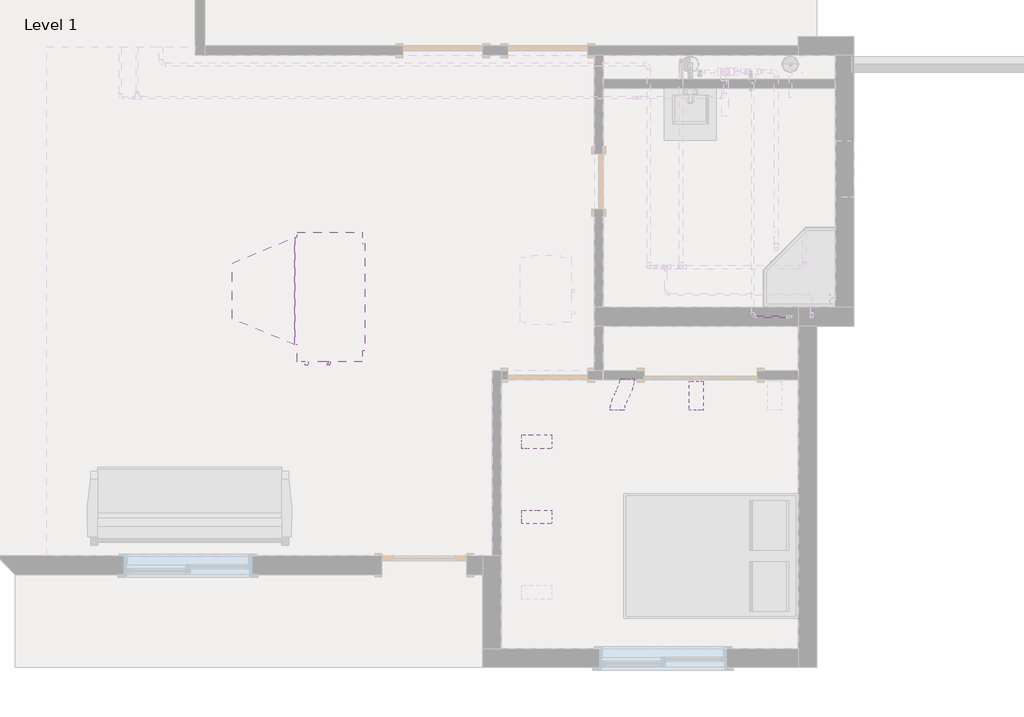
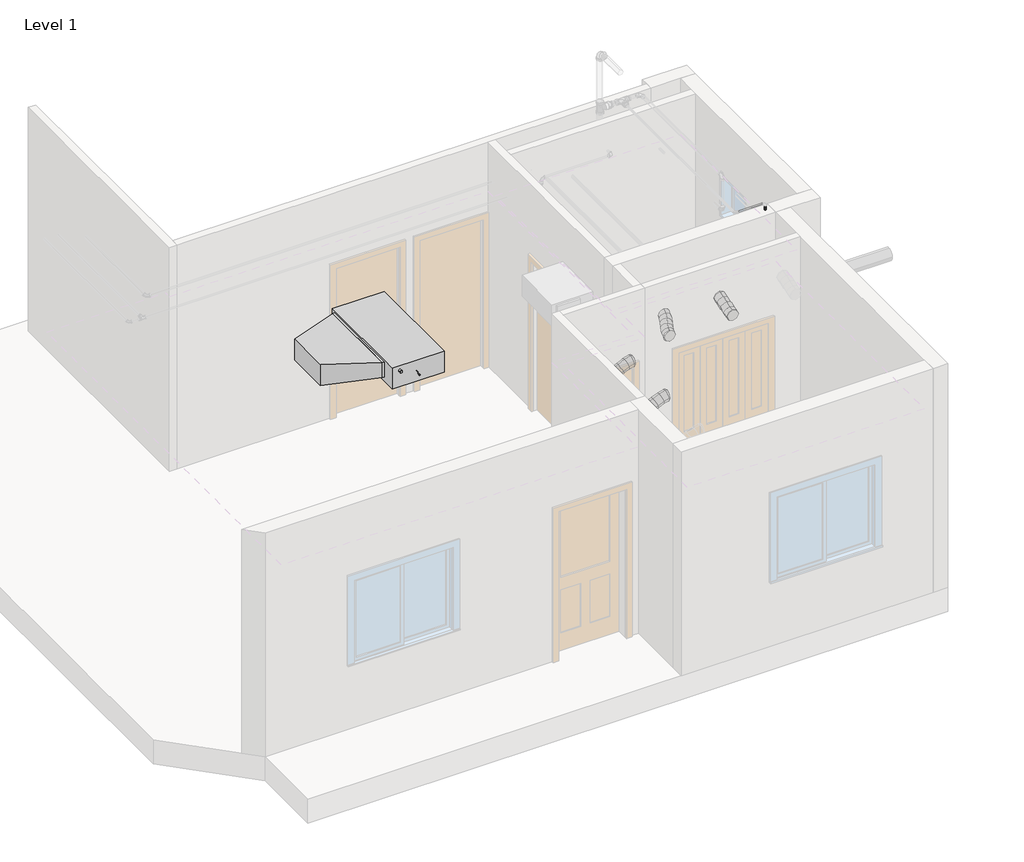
# One storey, part 2 of 5: 4 duct segments, 3 pipe segments, 1 duct fitting, 1 pipe fitting, 1 proxy.
"""IFC4 building model written with IfcOpenShell, lengths in millimetres."""

from ifc_helpers import new_model, si_unit, point, frame, frame_2d, origin, place, context, project, spatial, circle_curve, ellipse_curve, trimmed, segment, composite_curve, outline, extrude, transform, mapped, element, save
from ifc_brep_helpers import plane_surface, cylinder_surface, advanced_brep
from components import mechanical_equipment_5a1bd61d, m_rectangular_transition_angle_45_degree_3b68d6e0, m_bend_pvc_sch_40_dwv_standard_42e46e6b

model = new_model("IFC4")

# Units and contexts
model_context = context("Model", 3, world=origin())
ifc_project = project(units=[si_unit("LENGTHUNIT", "METRE", prefix="MILLI")], contexts=[model_context])

# Site, building, storey
site = spatial("IfcSite", under=ifc_project)
building = spatial("IfcBuilding", under=site)
storey = spatial("IfcBuildingStorey", under=building, Name="Level 1", Elevation=0.0)

# Proxy
placement = place(None, origin())
mechanical_equipment_shape = mechanical_equipment_5a1bd61d(model_context)
element("IfcBuildingElementProxy", 1, Name="Fan_Coil_Unit-Daikin-FXSQ-P-StandardDuct-RetAirBack : 9kW, 230V/50Hz/1Ph", ObjectType="Fan_Coil_Unit-Daikin-FXSQ-P-StandardDuct-RetAirBack : 9kW, 230V/50Hz/1Ph", at=placement, inside=storey, context=model_context, shape_type="MappedRepresentation", body=[
    mapped(mechanical_equipment_shape, transform((-13013.6230677, -1861.9074328, 2800.0), x_axis=(0.0, -1.0000000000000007, 0.0), y_axis=(1.0000000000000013, 0.0, 0.0), z_axis=(0.0, 0.0, 1.0000000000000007))),
])

# Duct fitting
m_rectangular_transition_angle_45_degree_shape = m_rectangular_transition_angle_45_degree_3b68d6e0(model_context)
element("IfcDuctFitting", 2, ObjectType="M_Rectangular Transition - Angle : 45 Degree", at=placement, inside=storey, context=model_context, shape_type="MappedRepresentation", body=[
    mapped(m_rectangular_transition_angle_45_degree_shape, transform((-13389.0230677, -1798.4074328, 2965.9125), x_axis=(-1.0, 0.0, 0.0), y_axis=(0.0, -1.0, 0.0), z_axis=(0.0, 0.0, 1.0))),
])

# Duct segments
element("IfcDuctSegment", 3, ObjectType="Flex - Round", at=placement, inside=storey, context=model_context, shape_type="AdvancedBrep", body=[
    advanced_brep(
    [(-10943.8498896, -4160.4324328, 2659.95), (-10943.8498896, -4235.4324328, 2584.95), (-10943.8498896, -4310.4324328, 2659.95), (-10943.8498896, -4235.4324328, 2734.95), (-10929.1429738, -4160.4324328, 2659.95), (-10920.155027, -4235.4324328, 2584.95), (-10929.1431207, -4310.4324328, 2659.95), (-10938.1310675, -4235.4324328, 2734.95), (-10861.0635411, -4160.432568, 2676.505074), (-10836.3819032, -4235.4325992, 2605.3213545), (-10861.0639442, -4310.432568, 2676.5050116), (-10885.7455821, -4235.4325368, 2747.6887311), (-10781.4354107, -4160.4328654, 2712.9261925), (-10750.239736, -4235.4329209, 2644.7219291), (-10781.4359202, -4310.4328654, 2712.9260815), (-10812.631595, -4235.4328099, 2781.130345), (-10701.8073867, -4160.4331629, 2749.3472624), (-10677.1257489, -4235.433194, 2678.1635429), (-10701.8077899, -4310.4331629, 2749.3472), (-10726.4894277, -4235.4331317, 2820.5309195), (-10619.0214413, -4160.4332981, 2765.902274), (-10619.0214413, -4235.4332981, 2840.902274), (-10619.0214413, -4310.4332981, 2765.902274), (-10619.0214413, -4235.4332981, 2690.902274), (-10633.7282103, -4160.4332981, 2765.902274), (-10624.7402635, -4235.4332981, 2690.902274), (-10633.7283571, -4310.4332981, 2765.902274), (-10642.7163039, -4235.4332981, 2840.902274)],
    [
        (0, 1, circle_curve(frame((-10943.8498896, -4235.4324328, 2659.95), z_axis=(-1.0, 0.0, 0.0), x_axis=(0.0, 1.0, 0.0)), 75.0)),
        (1, 2, circle_curve(frame((-10943.8498896, -4235.4324328, 2659.95), z_axis=(-1.0, 0.0, 0.0), x_axis=(0.0, 1.0, 0.0)), 75.0)),
        (2, 3, circle_curve(frame((-10943.8498896, -4235.4324328, 2659.95), z_axis=(-1.0, 0.0, 0.0), x_axis=(0.0, 1.0, 0.0)), 75.0)),
        (3, 0, circle_curve(frame((-10943.8498896, -4235.4324328, 2659.95), z_axis=(-1.0, 0.0, 0.0), x_axis=(0.0, 1.0, 0.0)), 75.0)),
        (0, 4),
        (4, 5, ellipse_curve(frame((-10929.1430473, -4235.4324328, 2659.95), z_axis=(-0.9928955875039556, 9.717531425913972e-07, -0.11898887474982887), x_axis=(-0.11898887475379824, -8.108736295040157e-06, 0.9928955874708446)), 75.5366435, 75.0)),
        (5, 1),
        (5, 6, ellipse_curve(frame((-10929.1430473, -4235.4324328, 2659.95), z_axis=(-0.9928955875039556, 9.717531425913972e-07, -0.11898887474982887), x_axis=(-0.11898887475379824, -8.108736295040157e-06, 0.9928955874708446)), 75.5366435, 75.0)),
        (6, 2),
        (6, 7, ellipse_curve(frame((-10929.1430473, -4235.4324328, 2659.95), z_axis=(-0.9928955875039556, 9.717531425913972e-07, -0.11898887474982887), x_axis=(-0.11898887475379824, -8.108736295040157e-06, 0.9928955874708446)), 75.5366435, 75.0)),
        (7, 3),
        (7, 4, ellipse_curve(frame((-10929.1430473, -4235.4324328, 2659.95), z_axis=(-0.9928955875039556, 9.717531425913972e-07, -0.11898887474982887), x_axis=(-0.11898887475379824, -8.108736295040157e-06, 0.9928955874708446)), 75.5366435, 75.0)),
        (4, 8),
        (8, 9, ellipse_curve(frame((-10861.0637426, -4235.432568, 2676.5050428), z_axis=(-0.9448163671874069, 2.6754327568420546e-06, -0.3276004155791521), x_axis=(-0.3276004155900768, -7.716085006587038e-06, 0.9448163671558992)), 75.3412946, 75.0)),
        (9, 5),
        (9, 10, ellipse_curve(frame((-10861.0637426, -4235.432568, 2676.5050428), z_axis=(-0.9448163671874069, 2.6754327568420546e-06, -0.3276004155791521), x_axis=(-0.3276004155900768, -7.716085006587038e-06, 0.9448163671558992)), 75.3412946, 75.0)),
        (10, 6),
        (10, 11, ellipse_curve(frame((-10861.0637426, -4235.432568, 2676.5050428), z_axis=(-0.9448163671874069, 2.6754327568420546e-06, -0.3276004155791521), x_axis=(-0.3276004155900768, -7.716085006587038e-06, 0.9448163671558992)), 75.3412946, 75.0)),
        (11, 7),
        (11, 8, ellipse_curve(frame((-10861.0637426, -4235.432568, 2676.5050428), z_axis=(-0.9448163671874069, 2.6754327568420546e-06, -0.3276004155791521), x_axis=(-0.3276004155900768, -7.716085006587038e-06, 0.9448163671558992)), 75.3412946, 75.0)),
        (8, 12),
        (12, 13, circle_curve(frame((-10781.4356655, -4235.4328654, 2712.926137), z_axis=(-0.9093894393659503, 3.3969273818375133e-06, -0.4159457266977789), x_axis=(3.396927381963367e-06, 0.9999999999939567, 7.399943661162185e-07)), 75.0)),
        (13, 9),
        (13, 14, circle_curve(frame((-10781.4356655, -4235.4328654, 2712.926137), z_axis=(-0.9093894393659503, 3.3969273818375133e-06, -0.4159457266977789), x_axis=(3.396927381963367e-06, 0.9999999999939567, 7.399943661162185e-07)), 75.0)),
        (14, 10),
        (14, 15, circle_curve(frame((-10781.4356655, -4235.4328654, 2712.926137), z_axis=(-0.9093894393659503, 3.3969273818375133e-06, -0.4159457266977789), x_axis=(3.396927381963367e-06, 0.9999999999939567, 7.399943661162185e-07)), 75.0)),
        (15, 11),
        (15, 12, circle_curve(frame((-10781.4356655, -4235.4328654, 2712.926137), z_axis=(-0.9093894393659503, 3.3969273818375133e-06, -0.4159457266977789), x_axis=(3.396927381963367e-06, 0.9999999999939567, 7.399943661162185e-07)), 75.0)),
        (12, 16),
        (16, 17, ellipse_curve(frame((-10701.8075883, -4235.4331629, 2749.3472312), z_axis=(-0.9448163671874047, 2.6754327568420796e-06, -0.32760041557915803), x_axis=(0.32760041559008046, 7.716085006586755e-06, -0.9448163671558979)), 75.3412946, 75.0)),
        (17, 13),
        (17, 18, ellipse_curve(frame((-10701.8075883, -4235.4331629, 2749.3472312), z_axis=(-0.9448163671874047, 2.6754327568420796e-06, -0.32760041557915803), x_axis=(0.32760041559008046, 7.716085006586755e-06, -0.9448163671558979)), 75.3412946, 75.0)),
        (18, 14),
        (18, 19, ellipse_curve(frame((-10701.8075883, -4235.4331629, 2749.3472312), z_axis=(-0.9448163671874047, 2.6754327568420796e-06, -0.32760041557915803), x_axis=(0.32760041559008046, 7.716085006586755e-06, -0.9448163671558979)), 75.3412946, 75.0)),
        (19, 15),
        (19, 16, ellipse_curve(frame((-10701.8075883, -4235.4331629, 2749.3472312), z_axis=(-0.9448163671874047, 2.6754327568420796e-06, -0.32760041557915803), x_axis=(0.32760041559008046, 7.716085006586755e-06, -0.9448163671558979)), 75.3412946, 75.0)),
        (20, 21, circle_curve(frame((-10619.0214413, -4235.4332981, 2765.902274), z_axis=(1.0, 0.0, 0.0), x_axis=(0.0, 1.0, 0.0)), 75.0)),
        (21, 22, circle_curve(frame((-10619.0214413, -4235.4332981, 2765.902274), z_axis=(1.0, 0.0, 0.0), x_axis=(0.0, 1.0, 0.0)), 75.0)),
        (22, 23, circle_curve(frame((-10619.0214413, -4235.4332981, 2765.902274), z_axis=(1.0, 0.0, 0.0), x_axis=(0.0, 1.0, 0.0)), 75.0)),
        (23, 20, circle_curve(frame((-10619.0214413, -4235.4332981, 2765.902274), z_axis=(1.0, 0.0, 0.0), x_axis=(0.0, 1.0, 0.0)), 75.0)),
        (16, 24),
        (24, 25, ellipse_curve(frame((-10633.7282837, -4235.4332981, 2765.902274), z_axis=(-0.9928955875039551, 9.717531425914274e-07, -0.1189888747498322), x_axis=(0.11898887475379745, 8.108736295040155e-06, -0.9928955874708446)), 75.5366435, 75.0)),
        (25, 17),
        (25, 26, ellipse_curve(frame((-10633.7282837, -4235.4332981, 2765.902274), z_axis=(-0.9928955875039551, 9.717531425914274e-07, -0.1189888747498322), x_axis=(0.11898887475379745, 8.108736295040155e-06, -0.9928955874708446)), 75.5366435, 75.0)),
        (26, 18),
        (26, 27, ellipse_curve(frame((-10633.7282837, -4235.4332981, 2765.902274), z_axis=(-0.9928955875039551, 9.717531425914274e-07, -0.1189888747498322), x_axis=(0.11898887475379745, 8.108736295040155e-06, -0.9928955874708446)), 75.5366435, 75.0)),
        (27, 19),
        (27, 24, ellipse_curve(frame((-10633.7282837, -4235.4332981, 2765.902274), z_axis=(-0.9928955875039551, 9.717531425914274e-07, -0.1189888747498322), x_axis=(0.11898887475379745, 8.108736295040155e-06, -0.9928955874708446)), 75.5366435, 75.0)),
        (24, 20),
        (23, 25),
        (22, 26),
        (21, 27),
    ],
    [
        plane_surface(frame((-10943.8498896, -4235.4324328, 2584.95), z_axis=(-1.0, 0.0, 0.0), x_axis=(0.0, 1.0, 0.0))),
        cylinder_surface(frame((-10943.8498896, -4235.4324328, 2659.95), z_axis=(-1.0, 0.0, 0.0), x_axis=(0.0, 1.0, 0.0)), 75.0),
        cylinder_surface(frame((-10929.1430473, -4235.4324328, 2659.95), z_axis=(-0.9716832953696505, 1.929698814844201e-06, -0.23628705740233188), x_axis=(1.929698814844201e-06, 0.9999999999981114, 2.3125562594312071e-07)), 75.0),
        cylinder_surface(frame((-10861.0637426, -4235.432568, 2676.5050428), z_axis=(-0.9093894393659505, 3.396927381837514e-06, -0.415945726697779), x_axis=(3.396927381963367e-06, 0.9999999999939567, 7.399943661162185e-07)), 75.0),
        cylinder_surface(frame((-10781.4356655, -4235.4328654, 2712.926137), z_axis=(-0.9093894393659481, 3.396927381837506e-06, -0.415945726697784), x_axis=(3.3969273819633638e-06, 0.9999999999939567, 7.39994366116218e-07)), 75.0),
        plane_surface(frame((-10619.0214413, -4235.4332981, 2690.902274), z_axis=(1.0, 0.0, 0.0), x_axis=(0.0, 1.0, 0.0))),
        cylinder_surface(frame((-10701.8075883, -4235.4331629, 2749.3472312), z_axis=(-0.9716832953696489, 1.9296988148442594e-06, -0.23628705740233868), x_axis=(1.9296988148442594e-06, 0.9999999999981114, 2.3125562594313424e-07)), 75.0),
        cylinder_surface(frame((-10633.7282837, -4235.4332981, 2765.902274), z_axis=(-1.0, 0.0, 0.0), x_axis=(0.0, 1.0, 0.0)), 75.0),
    ],
    [
        (0, [[1, 2, 3, 4]]),
        (1, [[-1, 5, 6, 7]]),
        (1, [[-2, -7, 8, 9]]),
        (1, [[-3, -9, 10, 11]]),
        (1, [[-4, -11, 12, -5]]),
        (2, [[-6, 13, 14, 15]]),
        (2, [[-8, -15, 16, 17]]),
        (2, [[-10, -17, 18, 19]]),
        (2, [[-12, -19, 20, -13]]),
        (3, [[-14, 21, 22, 23]]),
        (3, [[-16, -23, 24, 25]]),
        (3, [[-18, -25, 26, 27]]),
        (3, [[-20, -27, 28, -21]]),
        (4, [[-22, 29, 30, 31]]),
        (4, [[-24, -31, 32, 33]]),
        (4, [[-26, -33, 34, 35]]),
        (4, [[-28, -35, 36, -29]]),
        (5, [[37, 38, 39, 40]]),
        (6, [[-30, 41, 42, 43]]),
        (6, [[-32, -43, 44, 45]]),
        (6, [[-34, -45, 46, 47]]),
        (6, [[-36, -47, 48, -41]]),
        (7, [[-42, 49, -40, 50]]),
        (7, [[-44, -50, -39, 51]]),
        (7, [[-46, -51, -38, 52]]),
        (7, [[-48, -52, -37, -49]]),
    ],
),
])
element("IfcDuctSegment", 4, ObjectType="Flex - Round", at=placement, inside=storey, context=model_context, shape_type="AdvancedBrep", body=[
    advanced_brep(
    [(-10943.8498896, -3349.9324328, 2659.95), (-10943.8498896, -3424.9324328, 2584.95), (-10943.8498896, -3499.9324328, 2659.95), (-10943.8498896, -3424.9324328, 2734.95), (-10929.1420727, -3349.9324328, 2659.95), (-10920.1534583, -3424.9324328, 2584.95), (-10929.1422195, -3499.9324328, 2659.95), (-10938.1308338, -3424.9324328, 2734.95), (-10861.0633372, -3349.932568, 2676.5061698), (-10836.3801392, -3424.9325992, 2605.3229591), (-10861.0637403, -3499.932568, 2676.5061074), (-10885.7469383, -3424.9325368, 2747.6893181), (-10781.4354107, -3349.9328654, 2712.929699), (-10750.2379623, -3424.9329209, 2644.7262468), (-10781.4359202, -3499.9328654, 2712.929588), (-10812.6333686, -3424.9328099, 2781.1330402), (-10701.8075906, -3349.9331629, 2749.3531796), (-10677.1243926, -3424.933194, 2678.1699689), (-10701.8079937, -3499.9331629, 2749.3531173), (-10726.4911917, -3424.9331317, 2820.5363279), (-10619.0214413, -3349.9332981, 2765.909287), (-10619.0214413, -3424.9332981, 2840.909287), (-10619.0214413, -3499.9332981, 2765.909287), (-10619.0214413, -3424.9332981, 2690.909287), (-10633.7291115, -3349.9332981, 2765.909287), (-10624.7404971, -3424.9332981, 2690.909287), (-10633.7292583, -3499.9332981, 2765.909287), (-10642.7178726, -3424.9332981, 2840.909287)],
    [
        (0, 1, circle_curve(frame((-10943.8498896, -3424.9324328, 2659.95), z_axis=(-1.0, 0.0, 0.0), x_axis=(0.0, 1.0, 0.0)), 75.0)),
        (1, 2, circle_curve(frame((-10943.8498896, -3424.9324328, 2659.95), z_axis=(-1.0, 0.0, 0.0), x_axis=(0.0, 1.0, 0.0)), 75.0)),
        (2, 3, circle_curve(frame((-10943.8498896, -3424.9324328, 2659.95), z_axis=(-1.0, 0.0, 0.0), x_axis=(0.0, 1.0, 0.0)), 75.0)),
        (3, 0, circle_curve(frame((-10943.8498896, -3424.9324328, 2659.95), z_axis=(-1.0, 0.0, 0.0), x_axis=(0.0, 1.0, 0.0)), 75.0)),
        (0, 4),
        (4, 5, ellipse_curve(frame((-10929.1421461, -3424.9324328, 2659.95), z_axis=(-0.99289454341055, 9.717599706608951e-07, -0.11899758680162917), x_axis=(-0.11899758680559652, -8.108191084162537e-06, 0.9928945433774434)), 75.5367229, 75.0)),
        (5, 1),
        (5, 6, ellipse_curve(frame((-10929.1421461, -3424.9324328, 2659.95), z_axis=(-0.99289454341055, 9.717599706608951e-07, -0.11899758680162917), x_axis=(-0.11899758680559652, -8.108191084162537e-06, 0.9928945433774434)), 75.5367229, 75.0)),
        (6, 2),
        (6, 7, ellipse_curve(frame((-10929.1421461, -3424.9324328, 2659.95), z_axis=(-0.99289454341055, 9.717599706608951e-07, -0.11899758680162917), x_axis=(-0.11899758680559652, -8.108191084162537e-06, 0.9928945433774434)), 75.5367229, 75.0)),
        (7, 3),
        (7, 4, ellipse_curve(frame((-10929.1421461, -3424.9324328, 2659.95), z_axis=(-0.99289454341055, 9.717599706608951e-07, -0.11899758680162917), x_axis=(-0.11899758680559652, -8.108191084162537e-06, 0.9928945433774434)), 75.5367229, 75.0)),
        (4, 8),
        (8, 9, ellipse_curve(frame((-10861.0635388, -3424.932568, 2676.5061386), z_axis=(-0.9448092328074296, 2.6754237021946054e-06, -0.3276209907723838), x_axis=(-0.32762099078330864, -7.715516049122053e-06, 0.944809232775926)), 75.341325, 75.0)),
        (9, 5),
        (9, 10, ellipse_curve(frame((-10861.0635388, -3424.932568, 2676.5061386), z_axis=(-0.9448092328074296, 2.6754237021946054e-06, -0.3276209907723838), x_axis=(-0.32762099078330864, -7.715516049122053e-06, 0.944809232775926)), 75.341325, 75.0)),
        (10, 6),
        (10, 11, ellipse_curve(frame((-10861.0635388, -3424.932568, 2676.5061386), z_axis=(-0.9448092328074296, 2.6754237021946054e-06, -0.3276209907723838), x_axis=(-0.32762099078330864, -7.715516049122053e-06, 0.944809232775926)), 75.341325, 75.0)),
        (11, 7),
        (11, 8, ellipse_curve(frame((-10861.0635388, -3424.932568, 2676.5061386), z_axis=(-0.9448092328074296, 2.6754237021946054e-06, -0.3276209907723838), x_axis=(-0.32762099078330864, -7.715516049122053e-06, 0.944809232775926)), 75.341325, 75.0)),
        (8, 12),
        (12, 13, circle_curve(frame((-10781.4356655, -3424.9328654, 2712.9296435), z_axis=(-0.9093786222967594, 3.3968956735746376e-06, -0.41596937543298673), x_axis=(3.3968956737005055e-06, 0.9999999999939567, 7.40033723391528e-07)), 75.0)),
        (13, 9),
        (13, 14, circle_curve(frame((-10781.4356655, -3424.9328654, 2712.9296435), z_axis=(-0.9093786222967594, 3.3968956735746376e-06, -0.41596937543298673), x_axis=(3.3968956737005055e-06, 0.9999999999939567, 7.40033723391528e-07)), 75.0)),
        (14, 10),
        (14, 15, circle_curve(frame((-10781.4356655, -3424.9328654, 2712.9296435), z_axis=(-0.9093786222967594, 3.3968956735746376e-06, -0.41596937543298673), x_axis=(3.3968956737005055e-06, 0.9999999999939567, 7.40033723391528e-07)), 75.0)),
        (15, 11),
        (15, 12, circle_curve(frame((-10781.4356655, -3424.9328654, 2712.9296435), z_axis=(-0.9093786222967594, 3.3968956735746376e-06, -0.41596937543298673), x_axis=(3.3968956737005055e-06, 0.9999999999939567, 7.40033723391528e-07)), 75.0)),
        (12, 16),
        (16, 17, ellipse_curve(frame((-10701.8077922, -3424.9331629, 2749.3531484), z_axis=(-0.9448092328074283, 2.6754237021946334e-06, -0.3276209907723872), x_axis=(0.3276209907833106, 7.715516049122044e-06, -0.9448092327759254)), 75.341325, 75.0)),
        (17, 13),
        (17, 18, ellipse_curve(frame((-10701.8077922, -3424.9331629, 2749.3531484), z_axis=(-0.9448092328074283, 2.6754237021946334e-06, -0.3276209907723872), x_axis=(0.3276209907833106, 7.715516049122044e-06, -0.9448092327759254)), 75.341325, 75.0)),
        (18, 14),
        (18, 19, ellipse_curve(frame((-10701.8077922, -3424.9331629, 2749.3531484), z_axis=(-0.9448092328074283, 2.6754237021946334e-06, -0.3276209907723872), x_axis=(0.3276209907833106, 7.715516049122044e-06, -0.9448092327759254)), 75.341325, 75.0)),
        (19, 15),
        (19, 16, ellipse_curve(frame((-10701.8077922, -3424.9331629, 2749.3531484), z_axis=(-0.9448092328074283, 2.6754237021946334e-06, -0.3276209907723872), x_axis=(0.3276209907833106, 7.715516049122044e-06, -0.9448092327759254)), 75.341325, 75.0)),
        (20, 21, circle_curve(frame((-10619.0214413, -3424.9332981, 2765.909287), z_axis=(1.0, 0.0, 0.0), x_axis=(0.0, 1.0, 0.0)), 75.0)),
        (21, 22, circle_curve(frame((-10619.0214413, -3424.9332981, 2765.909287), z_axis=(1.0, 0.0, 0.0), x_axis=(0.0, 1.0, 0.0)), 75.0)),
        (22, 23, circle_curve(frame((-10619.0214413, -3424.9332981, 2765.909287), z_axis=(1.0, 0.0, 0.0), x_axis=(0.0, 1.0, 0.0)), 75.0)),
        (23, 20, circle_curve(frame((-10619.0214413, -3424.9332981, 2765.909287), z_axis=(1.0, 0.0, 0.0), x_axis=(0.0, 1.0, 0.0)), 75.0)),
        (16, 24),
        (24, 25, ellipse_curve(frame((-10633.7291849, -3424.9332981, 2765.909287), z_axis=(-0.9928945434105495, 9.71759970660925e-07, -0.11899758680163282), x_axis=(0.11899758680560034, 8.108191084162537e-06, -0.9928945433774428)), 75.5367229, 75.0)),
        (25, 17),
        (25, 26, ellipse_curve(frame((-10633.7291849, -3424.9332981, 2765.909287), z_axis=(-0.9928945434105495, 9.71759970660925e-07, -0.11899758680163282), x_axis=(0.11899758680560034, 8.108191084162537e-06, -0.9928945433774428)), 75.5367229, 75.0)),
        (26, 18),
        (26, 27, ellipse_curve(frame((-10633.7291849, -3424.9332981, 2765.909287), z_axis=(-0.9928945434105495, 9.71759970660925e-07, -0.11899758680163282), x_axis=(0.11899758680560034, 8.108191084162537e-06, -0.9928945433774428)), 75.5367229, 75.0)),
        (27, 19),
        (27, 24, ellipse_curve(frame((-10633.7291849, -3424.9332981, 2765.909287), z_axis=(-0.9928945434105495, 9.71759970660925e-07, -0.11899758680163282), x_axis=(0.11899758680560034, 8.108191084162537e-06, -0.9928945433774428)), 75.5367229, 75.0)),
        (24, 20),
        (23, 25),
        (22, 26),
        (21, 27),
    ],
    [
        plane_surface(frame((-10943.8498896, -3424.9324328, 2584.95), z_axis=(-1.0, 0.0, 0.0), x_axis=(0.0, 1.0, 0.0))),
        cylinder_surface(frame((-10943.8498896, -3424.9324328, 2659.95), z_axis=(-1.0, 0.0, 0.0), x_axis=(0.0, 1.0, 0.0)), 75.0),
        cylinder_surface(frame((-10929.1421461, -3424.9324328, 2659.95), z_axis=(-0.9716791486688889, 1.929710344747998e-06, -0.23630410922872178), x_axis=(1.929710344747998e-06, 0.9999999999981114, 2.31274182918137e-07)), 75.0),
        cylinder_surface(frame((-10861.0635388, -3424.932568, 2676.5061386), z_axis=(-0.9093786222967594, 3.3968956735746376e-06, -0.41596937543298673), x_axis=(3.3968956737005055e-06, 0.9999999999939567, 7.40033723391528e-07)), 75.0),
        cylinder_surface(frame((-10781.4356655, -3424.9328654, 2712.9296435), z_axis=(-0.9093786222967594, 3.396895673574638e-06, -0.4159693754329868), x_axis=(3.3968956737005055e-06, 0.9999999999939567, 7.400337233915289e-07)), 75.0),
        plane_surface(frame((-10619.0214413, -3424.9332981, 2690.909287), z_axis=(1.0, 0.0, 0.0), x_axis=(0.0, 1.0, 0.0))),
        cylinder_surface(frame((-10701.8077922, -3424.9331629, 2749.3531484), z_axis=(-0.9716791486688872, 1.9297103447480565e-06, -0.23630410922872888), x_axis=(1.9297103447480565e-06, 0.9999999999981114, 2.3127418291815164e-07)), 75.0),
        cylinder_surface(frame((-10633.7291849, -3424.9332981, 2765.909287), z_axis=(-1.0, 0.0, 0.0), x_axis=(0.0, 1.0, 0.0)), 75.0),
    ],
    [
        (0, [[1, 2, 3, 4]]),
        (1, [[-1, 5, 6, 7]]),
        (1, [[-2, -7, 8, 9]]),
        (1, [[-3, -9, 10, 11]]),
        (1, [[-4, -11, 12, -5]]),
        (2, [[-6, 13, 14, 15]]),
        (2, [[-8, -15, 16, 17]]),
        (2, [[-10, -17, 18, 19]]),
        (2, [[-12, -19, 20, -13]]),
        (3, [[-14, 21, 22, 23]]),
        (3, [[-16, -23, 24, 25]]),
        (3, [[-18, -25, 26, 27]]),
        (3, [[-20, -27, 28, -21]]),
        (4, [[-22, 29, 30, 31]]),
        (4, [[-24, -31, 32, 33]]),
        (4, [[-26, -33, 34, 35]]),
        (4, [[-28, -35, 36, -29]]),
        (5, [[37, 38, 39, 40]]),
        (6, [[-30, 41, 42, 43]]),
        (6, [[-32, -43, 44, 45]]),
        (6, [[-34, -45, 46, 47]]),
        (6, [[-36, -47, 48, -41]]),
        (7, [[-42, 49, -40, 50]]),
        (7, [[-44, -50, -39, 51]]),
        (7, [[-46, -51, -38, 52]]),
        (7, [[-48, -52, -37, -49]]),
    ],
),
])
element("IfcDuctSegment", 5, ObjectType="Flex - Round", at=placement, inside=storey, context=model_context, shape_type="AdvancedBrep", body=[
    advanced_brep(
    [(-9137.9123896, -3081.9324328, 2659.95), (-9062.9123896, -3081.9324328, 2584.95), (-8987.9123896, -3081.9324328, 2659.95), (-9062.9123896, -3081.9324328, 2734.95), (-9137.9123896, -3070.077247, 2659.95), (-9062.9123896, -3063.0805395, 2584.95), (-8987.9123896, -3070.077247, 2659.95), (-9062.9123896, -3077.0739544, 2734.95), (-9137.9123896, -3002.6244853, 2672.6457498), (-9062.9123896, -2982.827057, 2600.0550618), (-8987.9123896, -3002.6244853, 2672.6457498), (-9062.9123896, -3022.4219137, 2745.2364378), (-9137.9123896, -2925.2596658, 2700.5763993), (-9062.9123896, -2899.7916924, 2630.032921), (-8987.9123896, -2925.2596658, 2700.5763993), (-9062.9123896, -2950.7276393, 2771.1198776), (-9137.9123896, -2768.5868988, 2741.2027987), (-9062.9123896, -2768.5868988, 2816.2027987), (-8987.9123896, -2768.5868988, 2741.2027987), (-9062.9123896, -2768.5868988, 2666.2027987), (-9137.9123896, -2847.8948463, 2728.5070489), (-9062.9123896, -2828.097418, 2655.9163609), (-8987.9123896, -2847.8948463, 2728.5070489), (-9062.9123896, -2867.6922746, 2801.0977368), (-9137.9123896, -2780.4420847, 2741.2027987), (-9062.9123896, -2773.4453772, 2666.2027987), (-8987.9123896, -2780.4420847, 2741.2027987), (-9062.9123896, -2787.4387921, 2816.2027987)],
    [
        (0, 1, circle_curve(frame((-9062.9123896, -3081.9324328, 2659.95), z_axis=(0.0, -1.0, 0.0), x_axis=(-1.0, 0.0, 0.0)), 75.0)),
        (1, 2, circle_curve(frame((-9062.9123896, -3081.9324328, 2659.95), z_axis=(0.0, -1.0, 0.0), x_axis=(-1.0, 0.0, 0.0)), 75.0)),
        (2, 3, circle_curve(frame((-9062.9123896, -3081.9324328, 2659.95), z_axis=(0.0, -1.0, 0.0), x_axis=(-1.0, 0.0, 0.0)), 75.0)),
        (3, 0, circle_curve(frame((-9062.9123896, -3081.9324328, 2659.95), z_axis=(0.0, -1.0, 0.0), x_axis=(-1.0, 0.0, 0.0)), 75.0)),
        (0, 4),
        (4, 5, ellipse_curve(frame((-9062.9123896, -3070.077247, 2659.95), z_axis=(0.0, -0.9956767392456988, -0.09288611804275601), x_axis=(0.0, -0.09288611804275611, 0.9956767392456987)), 75.3256524, 75.0)),
        (5, 1),
        (5, 6, ellipse_curve(frame((-9062.9123896, -3070.077247, 2659.95), z_axis=(0.0, -0.9956767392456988, -0.09288611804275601), x_axis=(0.0, -0.09288611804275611, 0.9956767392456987)), 75.3256524, 75.0)),
        (6, 2),
        (6, 7, ellipse_curve(frame((-9062.9123896, -3070.077247, 2659.95), z_axis=(0.0, -0.9956767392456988, -0.09288611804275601), x_axis=(0.0, -0.09288611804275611, 0.9956767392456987)), 75.3256524, 75.0)),
        (7, 3),
        (7, 4, ellipse_curve(frame((-9062.9123896, -3070.077247, 2659.95), z_axis=(0.0, -0.9956767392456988, -0.09288611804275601), x_axis=(0.0, -0.09288611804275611, 0.9956767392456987)), 75.3256524, 75.0)),
        (4, 8),
        (8, 9, ellipse_curve(frame((-9062.9123896, -3002.6244853, 2672.6457498), z_axis=(0.0, -0.9647639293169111, -0.26311700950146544), x_axis=(0.0, -0.2631170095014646, 0.9647639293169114)), 75.2419175, 75.0)),
        (9, 5),
        (9, 10, ellipse_curve(frame((-9062.9123896, -3002.6244853, 2672.6457498), z_axis=(0.0, -0.9647639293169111, -0.26311700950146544), x_axis=(0.0, -0.2631170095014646, 0.9647639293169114)), 75.2419175, 75.0)),
        (10, 6),
        (10, 11, ellipse_curve(frame((-9062.9123896, -3002.6244853, 2672.6457498), z_axis=(0.0, -0.9647639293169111, -0.26311700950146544), x_axis=(0.0, -0.2631170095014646, 0.9647639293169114)), 75.2419175, 75.0)),
        (11, 7),
        (11, 8, ellipse_curve(frame((-9062.9123896, -3002.6244853, 2672.6457498), z_axis=(0.0, -0.9647639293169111, -0.26311700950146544), x_axis=(0.0, -0.2631170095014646, 0.9647639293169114)), 75.2419175, 75.0)),
        (8, 12),
        (12, 13, circle_curve(frame((-9062.9123896, -2925.2596658, 2700.5763993), z_axis=(0.0, -0.9405797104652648, -0.33957297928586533), x_axis=(-1.0, 0.0, 0.0)), 75.0)),
        (13, 9),
        (13, 14, circle_curve(frame((-9062.9123896, -2925.2596658, 2700.5763993), z_axis=(0.0, -0.9405797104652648, -0.33957297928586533), x_axis=(-1.0, 0.0, 0.0)), 75.0)),
        (14, 10),
        (14, 15, circle_curve(frame((-9062.9123896, -2925.2596658, 2700.5763993), z_axis=(0.0, -0.9405797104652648, -0.33957297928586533), x_axis=(-1.0, 0.0, 0.0)), 75.0)),
        (15, 11),
        (15, 12, circle_curve(frame((-9062.9123896, -2925.2596658, 2700.5763993), z_axis=(0.0, -0.9405797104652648, -0.33957297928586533), x_axis=(-1.0, 0.0, 0.0)), 75.0)),
        (16, 17, circle_curve(frame((-9062.9123896, -2768.5868988, 2741.2027987), z_axis=(0.0, 1.0, 0.0), x_axis=(-1.0, 0.0, 0.0)), 75.0)),
        (17, 18, circle_curve(frame((-9062.9123896, -2768.5868988, 2741.2027987), z_axis=(0.0, 1.0, 0.0), x_axis=(-1.0, 0.0, 0.0)), 75.0)),
        (18, 19, circle_curve(frame((-9062.9123896, -2768.5868988, 2741.2027987), z_axis=(0.0, 1.0, 0.0), x_axis=(-1.0, 0.0, 0.0)), 75.0)),
        (19, 16, circle_curve(frame((-9062.9123896, -2768.5868988, 2741.2027987), z_axis=(0.0, 1.0, 0.0), x_axis=(-1.0, 0.0, 0.0)), 75.0)),
        (12, 20),
        (20, 21, ellipse_curve(frame((-9062.9123896, -2847.8948463, 2728.5070489), z_axis=(0.0, -0.9647639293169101, -0.26311700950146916), x_axis=(0.0, 0.26311700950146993, -0.9647639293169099)), 75.2419175, 75.0)),
        (21, 13),
        (21, 22, ellipse_curve(frame((-9062.9123896, -2847.8948463, 2728.5070489), z_axis=(0.0, -0.9647639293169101, -0.26311700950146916), x_axis=(0.0, 0.26311700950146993, -0.9647639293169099)), 75.2419175, 75.0)),
        (22, 14),
        (22, 23, ellipse_curve(frame((-9062.9123896, -2847.8948463, 2728.5070489), z_axis=(0.0, -0.9647639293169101, -0.26311700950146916), x_axis=(0.0, 0.26311700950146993, -0.9647639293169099)), 75.2419175, 75.0)),
        (23, 15),
        (23, 20, ellipse_curve(frame((-9062.9123896, -2847.8948463, 2728.5070489), z_axis=(0.0, -0.9647639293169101, -0.26311700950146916), x_axis=(0.0, 0.26311700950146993, -0.9647639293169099)), 75.2419175, 75.0)),
        (20, 24),
        (24, 25, ellipse_curve(frame((-9062.9123896, -2780.4420847, 2741.2027987), z_axis=(0.0, -0.9956767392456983, -0.09288611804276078), x_axis=(0.0, 0.09288611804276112, -0.9956767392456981)), 75.3256524, 75.0)),
        (25, 21),
        (25, 26, ellipse_curve(frame((-9062.9123896, -2780.4420847, 2741.2027987), z_axis=(0.0, -0.9956767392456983, -0.09288611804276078), x_axis=(0.0, 0.09288611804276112, -0.9956767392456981)), 75.3256524, 75.0)),
        (26, 22),
        (26, 27, ellipse_curve(frame((-9062.9123896, -2780.4420847, 2741.2027987), z_axis=(0.0, -0.9956767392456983, -0.09288611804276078), x_axis=(0.0, 0.09288611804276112, -0.9956767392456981)), 75.3256524, 75.0)),
        (27, 23),
        (27, 24, ellipse_curve(frame((-9062.9123896, -2780.4420847, 2741.2027987), z_axis=(0.0, -0.9956767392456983, -0.09288611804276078), x_axis=(0.0, 0.09288611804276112, -0.9956767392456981)), 75.3256524, 75.0)),
        (24, 16),
        (19, 25),
        (18, 26),
        (17, 27),
    ],
    [
        plane_surface(frame((-9137.9123896, -3081.9324328, 2659.95), z_axis=(0.0, -1.0, 0.0), x_axis=(0.0, 0.0, 1.0))),
        cylinder_surface(frame((-9062.9123896, -3081.9324328, 2659.95), z_axis=(0.0, -1.0, 0.0), x_axis=(-1.0, 0.0, 0.0)), 75.0),
        cylinder_surface(frame((-9062.9123896, -3070.077247, 2659.95), z_axis=(0.0, -0.9827443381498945, -0.18496909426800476), x_axis=(-1.0, 0.0, 0.0)), 75.0),
        cylinder_surface(frame((-9062.9123896, -3002.6244853, 2672.6457498), z_axis=(0.0, -0.9405797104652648, -0.33957297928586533), x_axis=(-1.0, 0.0, 0.0)), 75.0),
        plane_surface(frame((-9137.9123896, -2768.5868988, 2741.2027987), z_axis=(0.0, 1.0, 0.0), x_axis=(0.0, 0.0, 1.0))),
        cylinder_surface(frame((-9062.9123896, -2925.2596658, 2700.5763993), z_axis=(0.0, -0.9405797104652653, -0.3395729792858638), x_axis=(-1.0, 0.0, 0.0)), 75.0),
        cylinder_surface(frame((-9062.9123896, -2847.8948463, 2728.5070489), z_axis=(0.0, -0.9827443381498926, -0.18496909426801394), x_axis=(-1.0, 0.0, 0.0)), 75.0),
        cylinder_surface(frame((-9062.9123896, -2780.4420847, 2741.2027987), z_axis=(0.0, -1.0, 0.0), x_axis=(-1.0, 0.0, 0.0)), 75.0),
    ],
    [
        (0, [[1, 2, 3, 4]]),
        (1, [[-1, 5, 6, 7]]),
        (1, [[-2, -7, 8, 9]]),
        (1, [[-3, -9, 10, 11]]),
        (1, [[-4, -11, 12, -5]]),
        (2, [[-6, 13, 14, 15]]),
        (2, [[-8, -15, 16, 17]]),
        (2, [[-10, -17, 18, 19]]),
        (2, [[-12, -19, 20, -13]]),
        (3, [[-14, 21, 22, 23]]),
        (3, [[-16, -23, 24, 25]]),
        (3, [[-18, -25, 26, 27]]),
        (3, [[-20, -27, 28, -21]]),
        (4, [[29, 30, 31, 32]]),
        (5, [[-22, 33, 34, 35]]),
        (5, [[-24, -35, 36, 37]]),
        (5, [[-26, -37, 38, 39]]),
        (5, [[-28, -39, 40, -33]]),
        (6, [[-34, 41, 42, 43]]),
        (6, [[-36, -43, 44, 45]]),
        (6, [[-38, -45, 46, 47]]),
        (6, [[-40, -47, 48, -41]]),
        (7, [[-42, 49, -32, 50]]),
        (7, [[-44, -50, -31, 51]]),
        (7, [[-46, -51, -30, 52]]),
        (7, [[-48, -52, -29, -49]]),
    ],
),
])
element("IfcDuctSegment", 6, ObjectType="Flex - Round", at=placement, inside=storey, context=model_context, shape_type="AdvancedBrep", body=[
    advanced_brep(
    [(-9988.4123896, -3081.9324328, 2659.95), (-9913.4123896, -3081.9324328, 2584.95), (-9838.4123896, -3081.9324328, 2659.95), (-9913.4123896, -3081.9324328, 2734.95), (-9988.4123896, -3062.814829, 2659.95), (-9913.4123896, -3064.5483723, 2584.95), (-9838.4123896, -3077.1165577, 2659.95), (-9913.4123896, -3075.3830145, 2734.95), (-9974.49762, -2990.8881509, 2670.4914914), (-9900.1402734, -2995.9436268, 2595.0046328), (-9829.7995097, -3032.5958178, 2666.4749086), (-9904.1568563, -3027.540342, 2741.9617672), (-9944.2300783, -2916.0546307, 2693.4214457), (-9870.6988293, -2923.1525517, 2617.3087556), (-9806.3472718, -2974.6124661, 2684.2417543), (-9879.8785208, -2967.5145451, 2760.3544444), (-9880.1063823, -2743.5868988, 2742.0), (-9805.1063823, -2743.5868988, 2817.0), (-9730.1063823, -2743.5868988, 2742.0), (-9805.1063823, -2743.5868988, 2667.0), (-9912.1715001, -2850.9068655, 2717.7082457), (-9838.6402512, -2858.0047865, 2641.5955556), (-9774.2886937, -2909.4647009, 2708.5285543), (-9847.8199426, -2902.36678, 2784.6412444), (-9888.7192622, -2792.9235138, 2735.4750914), (-9814.3619157, -2797.9789896, 2659.9882328), (-9744.021152, -2834.6311807, 2731.4585086), (-9818.3784985, -2829.5757048, 2806.9453672), (-9880.1063823, -2748.4027739, 2742.0), (-9805.1063823, -2750.1363172, 2667.0), (-9730.1063823, -2762.7045026, 2742.0), (-9805.1063823, -2760.9709594, 2817.0)],
    [
        (0, 1, circle_curve(frame((-9913.4123896, -3081.9324328, 2659.95), z_axis=(0.0, -1.0, 0.0), x_axis=(-1.0, 0.0, 0.0)), 75.0)),
        (1, 2, circle_curve(frame((-9913.4123896, -3081.9324328, 2659.95), z_axis=(0.0, -1.0, 0.0), x_axis=(-1.0, 0.0, 0.0)), 75.0)),
        (2, 3, circle_curve(frame((-9913.4123896, -3081.9324328, 2659.95), z_axis=(0.0, -1.0, 0.0), x_axis=(-1.0, 0.0, 0.0)), 75.0)),
        (3, 0, circle_curve(frame((-9913.4123896, -3081.9324328, 2659.95), z_axis=(0.0, -1.0, 0.0), x_axis=(-1.0, 0.0, 0.0)), 75.0)),
        (0, 4),
        (4, 5, ellipse_curve(frame((-9913.4123896, -3069.9656934, 2659.95), z_axis=(-0.09466999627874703, -0.9929218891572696, -0.07171968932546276), x_axis=(0.7914502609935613, -0.11876919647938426, 0.5995834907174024)), 75.5346426, 75.0)),
        (5, 1),
        (5, 6, ellipse_curve(frame((-9913.4123896, -3069.9656934, 2659.95), z_axis=(-0.09466999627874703, -0.9929218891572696, -0.07171968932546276), x_axis=(0.7914502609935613, -0.11876919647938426, 0.5995834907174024)), 75.5346426, 75.0)),
        (6, 2),
        (6, 7, ellipse_curve(frame((-9913.4123896, -3069.9656934, 2659.95), z_axis=(-0.09466999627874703, -0.9929218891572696, -0.07171968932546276), x_axis=(0.7914502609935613, -0.11876919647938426, 0.5995834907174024)), 75.5346426, 75.0)),
        (7, 3),
        (7, 4, ellipse_curve(frame((-9913.4123896, -3069.9656934, 2659.95), z_axis=(-0.09466999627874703, -0.9929218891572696, -0.07171968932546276), x_axis=(0.7914502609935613, -0.11876919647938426, 0.5995834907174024)), 75.5346426, 75.0)),
        (4, 8),
        (8, 9, ellipse_curve(frame((-9902.1485649, -3011.7419844, 2668.4832), z_axis=(-0.27619099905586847, -0.9380506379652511, -0.20923559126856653), x_axis=(0.7477128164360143, -0.34649819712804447, 0.5664490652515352)), 75.5051161, 75.0)),
        (9, 5),
        (9, 10, ellipse_curve(frame((-9902.1485649, -3011.7419844, 2668.4832), z_axis=(-0.27619099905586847, -0.9380506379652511, -0.20923559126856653), x_axis=(0.7477128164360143, -0.34649819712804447, 0.5664490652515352)), 75.5051161, 75.0)),
        (10, 6),
        (10, 11, ellipse_curve(frame((-9902.1485649, -3011.7419844, 2668.4832), z_axis=(-0.27619099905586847, -0.9380506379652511, -0.20923559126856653), x_axis=(0.7477128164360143, -0.34649819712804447, 0.5664490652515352)), 75.5051161, 75.0)),
        (11, 7),
        (11, 8, ellipse_curve(frame((-9902.1485649, -3011.7419844, 2668.4832), z_axis=(-0.27619099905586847, -0.9380506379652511, -0.20923559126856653), x_axis=(0.7477128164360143, -0.34649819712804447, 0.5664490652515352)), 75.5051161, 75.0)),
        (8, 12),
        (12, 13, ellipse_curve(frame((-9875.2886751, -2945.3335484, 2688.8316), z_axis=(-0.39004527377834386, -0.8720957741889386, -0.2954888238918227), x_axis=(0.6951407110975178, -0.4893352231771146, 0.5266217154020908)), 75.0654338, 75.0)),
        (13, 9),
        (13, 14, ellipse_curve(frame((-9875.2886751, -2945.3335484, 2688.8316), z_axis=(-0.39004527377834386, -0.8720957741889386, -0.2954888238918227), x_axis=(0.6951407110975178, -0.4893352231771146, 0.5266217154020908)), 75.0654338, 75.0)),
        (14, 10),
        (14, 15, ellipse_curve(frame((-9875.2886751, -2945.3335484, 2688.8316), z_axis=(-0.39004527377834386, -0.8720957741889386, -0.2954888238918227), x_axis=(0.6951407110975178, -0.4893352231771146, 0.5266217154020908)), 75.0654338, 75.0)),
        (15, 11),
        (15, 12, ellipse_curve(frame((-9875.2886751, -2945.3335484, 2688.8316), z_axis=(-0.39004527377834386, -0.8720957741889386, -0.2954888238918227), x_axis=(0.6951407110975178, -0.4893352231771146, 0.5266217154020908)), 75.0654338, 75.0)),
        (16, 17, circle_curve(frame((-9805.1063823, -2743.5868988, 2742.0), z_axis=(0.0, 1.0, 0.0), x_axis=(-1.0, 0.0, 0.0)), 75.0)),
        (17, 18, circle_curve(frame((-9805.1063823, -2743.5868988, 2742.0), z_axis=(0.0, 1.0, 0.0), x_axis=(-1.0, 0.0, 0.0)), 75.0)),
        (18, 19, circle_curve(frame((-9805.1063823, -2743.5868988, 2742.0), z_axis=(0.0, 1.0, 0.0), x_axis=(-1.0, 0.0, 0.0)), 75.0)),
        (19, 16, circle_curve(frame((-9805.1063823, -2743.5868988, 2742.0), z_axis=(0.0, 1.0, 0.0), x_axis=(-1.0, 0.0, 0.0)), 75.0)),
        (12, 20),
        (20, 21, ellipse_curve(frame((-9843.2300969, -2880.1857832, 2713.1184), z_axis=(-0.39004527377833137, -0.8720957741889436, -0.2954888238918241), x_axis=(-0.695140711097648, 0.48933522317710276, -0.52662171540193)), 75.0654338, 75.0)),
        (21, 13),
        (21, 22, ellipse_curve(frame((-9843.2300969, -2880.1857832, 2713.1184), z_axis=(-0.39004527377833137, -0.8720957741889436, -0.2954888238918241), x_axis=(-0.695140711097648, 0.48933522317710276, -0.52662171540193)), 75.0654338, 75.0)),
        (22, 14),
        (22, 23, ellipse_curve(frame((-9843.2300969, -2880.1857832, 2713.1184), z_axis=(-0.39004527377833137, -0.8720957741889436, -0.2954888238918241), x_axis=(-0.695140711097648, 0.48933522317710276, -0.52662171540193)), 75.0654338, 75.0)),
        (23, 15),
        (23, 20, ellipse_curve(frame((-9843.2300969, -2880.1857832, 2713.1184), z_axis=(-0.39004527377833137, -0.8720957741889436, -0.2954888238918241), x_axis=(-0.695140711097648, 0.48933522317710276, -0.52662171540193)), 75.0654338, 75.0)),
        (20, 24),
        (24, 25, ellipse_curve(frame((-9816.3702071, -2813.7773472, 2733.4668), z_axis=(-0.2761909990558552, -0.9380506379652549, -0.20923559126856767), x_axis=(-0.7477128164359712, 0.34649819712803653, -0.5664490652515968)), 75.5051161, 75.0)),
        (25, 21),
        (25, 26, ellipse_curve(frame((-9816.3702071, -2813.7773472, 2733.4668), z_axis=(-0.2761909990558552, -0.9380506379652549, -0.20923559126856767), x_axis=(-0.7477128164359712, 0.34649819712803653, -0.5664490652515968)), 75.5051161, 75.0)),
        (26, 22),
        (26, 27, ellipse_curve(frame((-9816.3702071, -2813.7773472, 2733.4668), z_axis=(-0.2761909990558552, -0.9380506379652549, -0.20923559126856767), x_axis=(-0.7477128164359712, 0.34649819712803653, -0.5664490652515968)), 75.5051161, 75.0)),
        (27, 23),
        (27, 24, ellipse_curve(frame((-9816.3702071, -2813.7773472, 2733.4668), z_axis=(-0.2761909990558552, -0.9380506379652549, -0.20923559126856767), x_axis=(-0.7477128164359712, 0.34649819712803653, -0.5664490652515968)), 75.5051161, 75.0)),
        (24, 28),
        (28, 29, ellipse_curve(frame((-9805.1063823, -2755.5536383, 2742.0), z_axis=(-0.0946699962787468, -0.9929218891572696, -0.07171968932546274), x_axis=(-0.7914502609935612, 0.11876919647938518, -0.5995834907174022)), 75.5346426, 75.0)),
        (29, 25),
        (29, 30, ellipse_curve(frame((-9805.1063823, -2755.5536383, 2742.0), z_axis=(-0.0946699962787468, -0.9929218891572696, -0.07171968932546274), x_axis=(-0.7914502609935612, 0.11876919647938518, -0.5995834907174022)), 75.5346426, 75.0)),
        (30, 26),
        (30, 31, ellipse_curve(frame((-9805.1063823, -2755.5536383, 2742.0), z_axis=(-0.0946699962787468, -0.9929218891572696, -0.07171968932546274), x_axis=(-0.7914502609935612, 0.11876919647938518, -0.5995834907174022)), 75.5346426, 75.0)),
        (31, 27),
        (31, 28, ellipse_curve(frame((-9805.1063823, -2755.5536383, 2742.0), z_axis=(-0.0946699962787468, -0.9929218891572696, -0.07171968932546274), x_axis=(-0.7914502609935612, 0.11876919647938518, -0.5995834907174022)), 75.5346426, 75.0)),
        (28, 16),
        (19, 29),
        (18, 30),
        (17, 31),
    ],
    [
        plane_surface(frame((-9988.4123896, -3081.9324328, 2659.95), z_axis=(0.0, -1.0, 0.0), x_axis=(0.0, 0.0, 1.0))),
        cylinder_surface(frame((-9913.4123896, -3081.9324328, 2659.95), z_axis=(0.0, -1.0, 0.0), x_axis=(-1.0, 0.0, 0.0)), 75.0),
        cylinder_surface(frame((-9913.4123896, -3069.9656934, 2659.95), z_axis=(-0.18799982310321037, -0.9717877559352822, -0.14242409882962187), x_axis=(-0.982075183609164, 0.18799982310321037, 0.013579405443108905)), 75.0),
        cylinder_surface(frame((-9902.1485649, -3011.7419844, 2668.4832), z_axis=(-0.36068683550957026, -0.8917627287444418, -0.27324758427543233), x_axis=(-0.9312308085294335, 0.36068683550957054, 0.05209786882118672)), 75.0),
        plane_surface(frame((-9880.1063823, -2743.5868988, 2742.0), z_axis=(0.0, 1.0, 0.0), x_axis=(0.0, 0.0, 1.0))),
        cylinder_surface(frame((-9875.2886751, -2945.3335484, 2688.8316), z_axis=(-0.4187237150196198, -0.850908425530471, -0.317214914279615), x_axis=(-0.9052737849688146, 0.4187237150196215, 0.07176227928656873)), 75.0),
        cylinder_surface(frame((-9843.2300969, -2880.1857832, 2713.1184), z_axis=(-0.36068683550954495, -0.8917627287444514, -0.2732475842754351), x_axis=(-0.9312308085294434, 0.3606868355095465, 0.05209786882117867)), 75.0),
        cylinder_surface(frame((-9816.3702071, -2813.7773472, 2733.4668), z_axis=(-0.18799982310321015, -0.9717877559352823, -0.14242409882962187), x_axis=(-0.982075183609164, 0.1879998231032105, 0.013579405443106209)), 75.0),
        cylinder_surface(frame((-9805.1063823, -2755.5536383, 2742.0), z_axis=(0.0, -1.0, 0.0), x_axis=(-1.0, 0.0, 0.0)), 75.0),
    ],
    [
        (0, [[1, 2, 3, 4]]),
        (1, [[-1, 5, 6, 7]]),
        (1, [[-2, -7, 8, 9]]),
        (1, [[-3, -9, 10, 11]]),
        (1, [[-4, -11, 12, -5]]),
        (2, [[-6, 13, 14, 15]]),
        (2, [[-8, -15, 16, 17]]),
        (2, [[-10, -17, 18, 19]]),
        (2, [[-12, -19, 20, -13]]),
        (3, [[-14, 21, 22, 23]]),
        (3, [[-16, -23, 24, 25]]),
        (3, [[-18, -25, 26, 27]]),
        (3, [[-20, -27, 28, -21]]),
        (4, [[29, 30, 31, 32]]),
        (5, [[-22, 33, 34, 35]]),
        (5, [[-24, -35, 36, 37]]),
        (5, [[-26, -37, 38, 39]]),
        (5, [[-28, -39, 40, -33]]),
        (6, [[-34, 41, 42, 43]]),
        (6, [[-36, -43, 44, 45]]),
        (6, [[-38, -45, 46, 47]]),
        (6, [[-40, -47, 48, -41]]),
        (7, [[-42, 49, 50, 51]]),
        (7, [[-44, -51, 52, 53]]),
        (7, [[-46, -53, 54, 55]]),
        (7, [[-48, -55, 56, -49]]),
        (8, [[-50, 57, -32, 58]]),
        (8, [[-52, -58, -31, 59]]),
        (8, [[-54, -59, -30, 60]]),
        (8, [[-56, -60, -29, -57]]),
    ],
),
])

# Pipe fitting
m_bend_pvc_sch_40_dwv_standard_shape = m_bend_pvc_sch_40_dwv_standard_42e46e6b(model_context)
element("IfcPipeFitting", 7, ObjectType="M_Bend - PVC - Sch 40 - DWV : Standard", at=placement, inside=storey, context=model_context, shape_type="MappedRepresentation", body=[
    mapped(m_bend_pvc_sch_40_dwv_standard_shape, transform((-8044.7123896, -2075.4324328, 914.4), x_axis=(0.0, -1.0, 0.0), y_axis=(0.0, 0.0, 1.0), z_axis=(-1.0, 0.0, 0.0))),
])

# Pipe segments
element("IfcPipeSegment", 8, ObjectType="PVC - DWV", at=placement, inside=storey, context=model_context, shape_type="SweptSolid", body=[
    extrude(outline(composite_curve([segment(trimmed(circle_curve(frame_2d((914.4, -8044.7123896)), 10.668), [point((914.4, -8055.3803896))], [point((903.732, -8044.7123896))], False, "CARTESIAN"), True, "CONTINUOUS"), segment(trimmed(circle_curve(frame_2d((914.4, -8044.7123896)), 10.668), [point((903.732, -8044.7123896))], [point((914.4, -8034.0443896))], False, "CARTESIAN"), True, "CONTINUOUS"), segment(trimmed(circle_curve(frame_2d((914.4, -8044.7123896)), 10.668), [point((914.4, -8034.0443896))], [point((925.068, -8044.7123896))], False, "CARTESIAN"), True, "CONTINUOUS"), segment(trimmed(circle_curve(frame_2d((914.4, -8044.7123896)), 10.668), [point((925.068, -8044.7123896))], [point((914.4, -8055.3803896))], False, "CARTESIAN"), True, "CONTINUOUS")], self_intersect=False)), frame((0.0, -2034.4183703, 0.0), z_axis=(0.0, 1.0, 0.0), x_axis=(0.0, 0.0, 1.0)), (0.0, 0.0, 1.0), 58.9859375),
])
element("IfcPipeSegment", 9, ObjectType="PVC - DWV", at=placement, inside=storey, context=model_context, shape_type="SweptSolid", body=[
    extrude(outline(composite_curve([segment(trimmed(circle_curve(frame_2d((-8044.7123896, -2075.4324328)), 10.668), [point((-8055.3803896, -2075.4324328))], [point((-8044.7123896, -2064.7644328))], False, "CARTESIAN"), True, "CONTINUOUS"), segment(trimmed(circle_curve(frame_2d((-8044.7123896, -2075.4324328)), 10.668), [point((-8044.7123896, -2064.7644328))], [point((-8034.0443896, -2075.4324328))], False, "CARTESIAN"), True, "CONTINUOUS"), segment(trimmed(circle_curve(frame_2d((-8044.7123896, -2075.4324328)), 10.668), [point((-8034.0443896, -2075.4324328))], [point((-8044.7123896, -2086.1004328))], False, "CARTESIAN"), True, "CONTINUOUS"), segment(trimmed(circle_curve(frame_2d((-8044.7123896, -2075.4324328)), 10.668), [point((-8044.7123896, -2086.1004328))], [point((-8055.3803896, -2075.4324328))], False, "CARTESIAN"), True, "CONTINUOUS")], self_intersect=False)), frame((0.0, 0.0, 955.4140625), z_axis=(0.0, 0.0, 1.0), x_axis=(1.0, 0.0, 0.0)), (0.0, 0.0, 1.0), 2303.571875),
])
element("IfcPipeSegment", 10, ObjectType="PVC - DWV", at=placement, inside=storey, context=model_context, shape_type="SweptSolid", body=[
    extrude(outline(composite_curve([segment(trimmed(circle_curve(frame_2d((-2075.4324328, 3300.0)), 10.668), [point((-2064.7644328, 3300.0))], [point((-2075.4324328, 3289.332))], False, "CARTESIAN"), True, "CONTINUOUS"), segment(trimmed(circle_curve(frame_2d((-2075.4324328, 3300.0)), 10.668), [point((-2075.4324328, 3289.332))], [point((-2086.1004328, 3300.0))], False, "CARTESIAN"), True, "CONTINUOUS"), segment(trimmed(circle_curve(frame_2d((-2075.4324328, 3300.0)), 10.668), [point((-2086.1004328, 3300.0))], [point((-2075.4324328, 3310.668))], False, "CARTESIAN"), True, "CONTINUOUS"), segment(trimmed(circle_curve(frame_2d((-2075.4324328, 3300.0)), 10.668), [point((-2075.4324328, 3310.668))], [point((-2064.7644328, 3300.0))], False, "CARTESIAN"), True, "CONTINUOUS")], self_intersect=False)), frame((-8412.6842646, 0.0, 0.0), z_axis=(1.0, 0.0, 0.0), x_axis=(0.0, 1.0, 0.0)), (0.0, 0.0, 1.0), 326.9578125),
])

save(model, "model.ifc")
